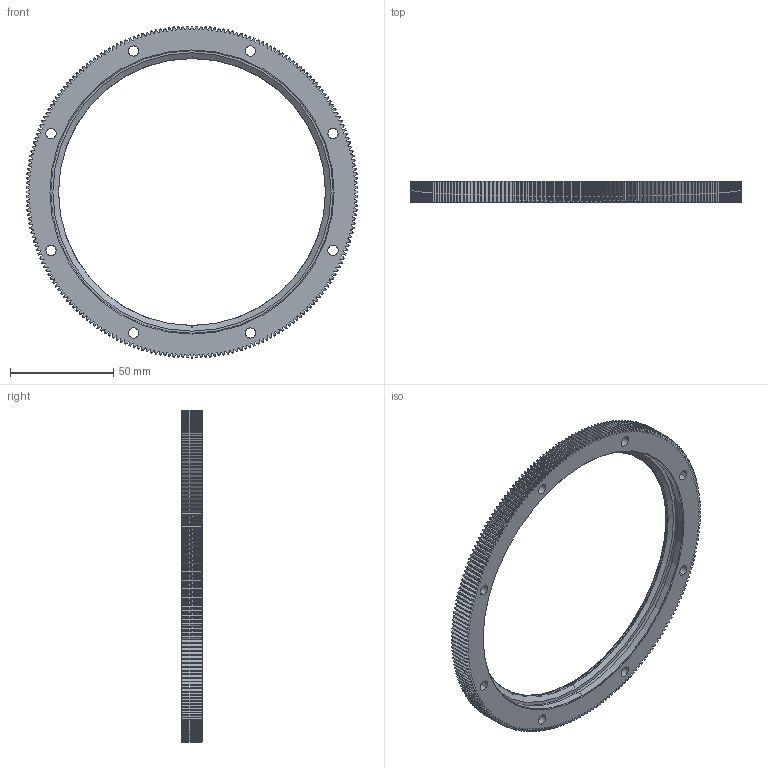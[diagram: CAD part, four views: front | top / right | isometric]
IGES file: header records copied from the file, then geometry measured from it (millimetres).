
Start section: 3D InterOp IGES (v. 2019 1.0.2), Spatial Corp. Copyright (c) 1999-2017.
Global section: file name: RIV 161 R360 P.igs; native system: Spatial Corp.; preprocessor: 3D InterOp GENERIC/IGES 3.0; author: Noname; organization: Noname; date: 20220719.140140; units: millimetre
Bounding box: 161 x 10 x 161 mm (x, y, z)
Surface area: 32969.7 mm2 (no closed solid volume)
Topology: 0 solids, 0 shells, 1428 faces, 8488 edges, 8484 vertices
Faces by surface type: extrusion 924, revolution 504
